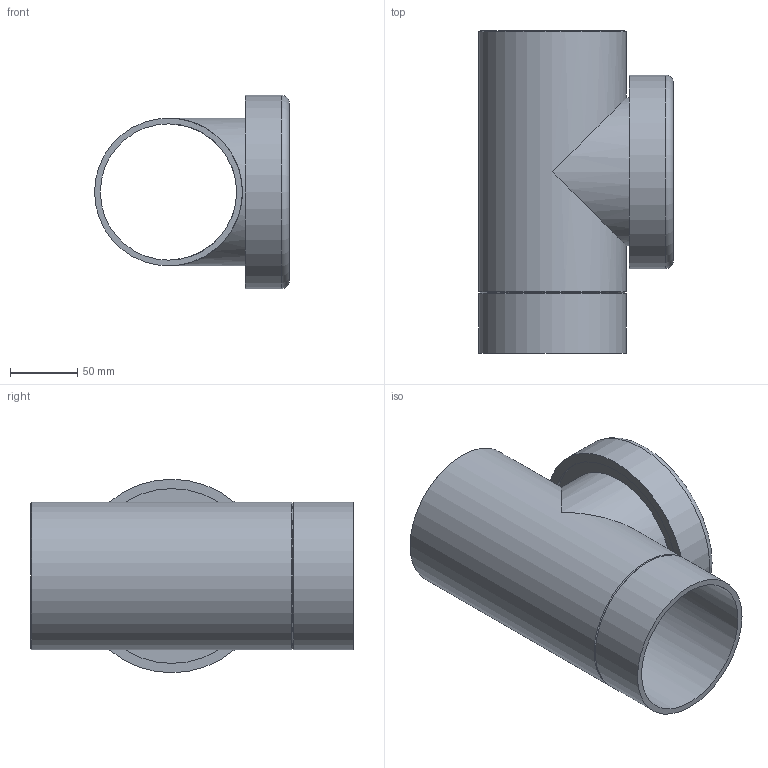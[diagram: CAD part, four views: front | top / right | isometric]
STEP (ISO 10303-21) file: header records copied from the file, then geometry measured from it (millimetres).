
FILE_DESCRIPTION(/* description */ (''),/* implementation_level */ '2;1');
FILE_NAME(/* name */ 'Z:\Geberit\Export\NewStep\367451.stp',/* time_stamp */ '2014-04-02T07:57:02+02:00',/* author */ ('Marco'),/* organization */ (''),/* preprocessor_version */ 'ST-DEVELOPER v15.2',/* originating_system */ 'Autodesk Inventor 2014',/* authorisation */ '');
FILE_SCHEMA (('AUTOMOTIVE_DESIGN { 1 0 10303 214 3 1 1 }'));
Length unit declared in the file: millimetre
Products named in the file (3): 853403; 853404; 367451
Bounding box: 145 x 240 x 144 mm (x, y, z)
Volume: 655278.1 mm3; surface area: 249614.9 mm2
Topology: 2 solids, 2 shells, 56 faces, 121 edges, 80 vertices
Faces by surface type: cylinder 28, plane 24, cone 3, torus 1
Full cylindrical faces by diameter (mm): 8 x2, 78 x1, 101.4 x2, 110 x3, 115 x1, 130 x2, 144 x1
Entity records: 1562 total; most frequent: DIRECTION 284, CARTESIAN_POINT 239, ORIENTED_EDGE 202, AXIS2_PLACEMENT_3D 122, EDGE_CURVE 101, EDGE_LOOP 88, VERTEX_POINT 77, STYLED_ITEM 58
